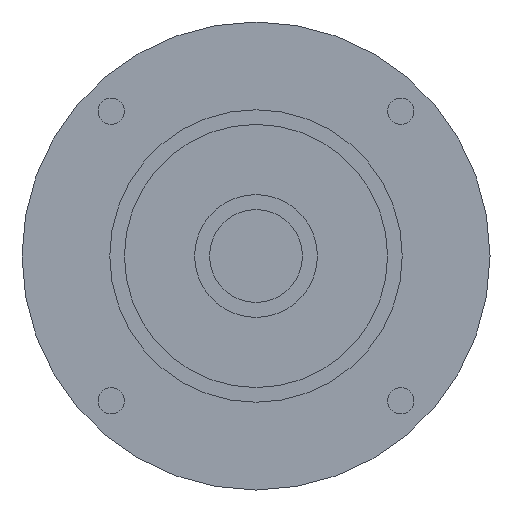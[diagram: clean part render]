
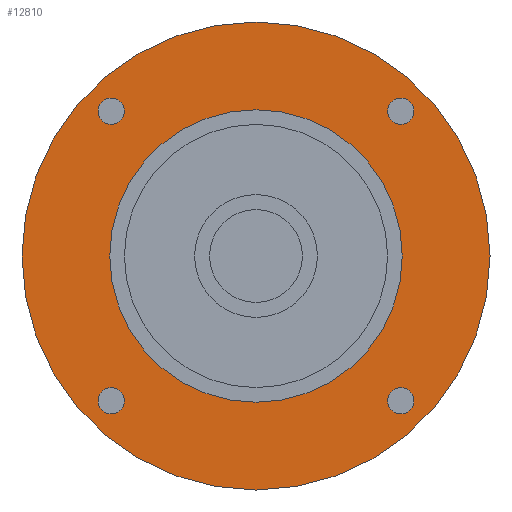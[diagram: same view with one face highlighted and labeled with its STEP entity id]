
A CAD part, left-side view. The second image highlights one B-rep face of the part: STEP entity #12810.
In plain terms, the highlighted planar face has unit normal (-1, 0, 0) as drawn and (0, 0, -1) by its records, which use the part's own axes.
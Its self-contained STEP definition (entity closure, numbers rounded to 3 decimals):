
#11630=CARTESIAN_POINT('',(-40.,0.,-47.2));
#11640=VERTEX_POINT('',#11630);
#11730=CARTESIAN_POINT('',(40.,0.,-47.2));
#11740=VERTEX_POINT('',#11730);
#11770=CARTESIAN_POINT('',(0.,0.,
-47.2));
#11780=DIRECTION('',(0.,0.,1.));
#11790=DIRECTION('',(1.,0.,0.));
#11800=AXIS2_PLACEMENT_3D('',#11770,#11780,#11790);
#11810=CIRCLE('',#11800,40.);
#11820=CARTESIAN_POINT('',(0.,-40.,-47.2));
#11830=VERTEX_POINT('',#11820);
#11840=EDGE_CURVE('',#11830,#11740,#11810,.T.);
#11860=EDGE_CURVE('',#11640,#11830,#11810,.T.);
#11910=CARTESIAN_POINT('',(0.,0.,
-47.2));
#11920=DIRECTION('',(0.,0.,-1.));
#11930=DIRECTION('',(1.,0.,0.));
#11940=AXIS2_PLACEMENT_3D('',#11910,#11920,#11930);
#11950=PLANE('',#11940);
#11960=CARTESIAN_POINT('',(24.749,-24.749,-47.2));
#11970=DIRECTION('',(0.,0.,-1.));
#11980=DIRECTION('',(1.,0.,0.));
#11990=AXIS2_PLACEMENT_3D('',#11960,#11970,#11980);
#12000=CIRCLE('',#11990,2.25);
#12010=CARTESIAN_POINT('',(26.999,-24.749,-47.2));
#12020=VERTEX_POINT('',#12010);
#12030=CARTESIAN_POINT('',(22.499,-24.749,-47.2));
#12040=VERTEX_POINT('',#12030);
#12050=EDGE_CURVE('',#12020,#12040,#12000,.T.);
#12060=ORIENTED_EDGE('',*,*,#12050,.F.);
#12070=EDGE_CURVE('',#12040,#12020,#12000,.T.);
#12080=ORIENTED_EDGE('',*,*,#12070,.F.);
#12090=EDGE_LOOP('',(#12080,#12060));
#12100=FACE_BOUND('',#12090,.T.);
#12110=ORIENTED_EDGE('',*,*,#11840,.F.);
#12120=EDGE_CURVE('',#11740,#11640,#11810,.T.);
#12130=ORIENTED_EDGE('',*,*,#12120,.F.);
#12140=ORIENTED_EDGE('',*,*,#11860,.F.);
#12150=EDGE_LOOP('',(#12140,#12130,#12110));
#12160=FACE_OUTER_BOUND('',#12150,.T.);
#12170=CARTESIAN_POINT('',(24.749,24.749,-47.2));
#12180=DIRECTION('',(0.,0.,-1.));
#12190=DIRECTION('',(0.,1.,0.));
#12200=AXIS2_PLACEMENT_3D('',#12170,#12180,#12190);
#12210=CIRCLE('',#12200,2.25);
#12220=CARTESIAN_POINT('',(24.749,26.999,-47.2));
#12230=VERTEX_POINT('',#12220);
#12240=CARTESIAN_POINT('',(24.749,22.499,-47.2));
#12250=VERTEX_POINT('',#12240);
#12260=EDGE_CURVE('',#12230,#12250,#12210,.T.);
#12270=ORIENTED_EDGE('',*,*,#12260,.F.);
#12280=EDGE_CURVE('',#12250,#12230,#12210,.T.);
#12290=ORIENTED_EDGE('',*,*,#12280,.F.);
#12300=EDGE_LOOP('',(#12290,#12270));
#12310=FACE_BOUND('',#12300,.T.);
#12320=CARTESIAN_POINT('',(-24.749,24.749,-47.2));
#12330=DIRECTION('',(0.,0.,-1.));
#12340=DIRECTION('',(-1.,0.,0.));
#12350=AXIS2_PLACEMENT_3D('',#12320,#12330,#12340);
#12360=CIRCLE('',#12350,2.25);
#12370=CARTESIAN_POINT('',(-26.999,24.749,-47.2));
#12380=VERTEX_POINT('',#12370);
#12390=CARTESIAN_POINT('',(-22.499,24.749,-47.2));
#12400=VERTEX_POINT('',#12390);
#12410=EDGE_CURVE('',#12380,#12400,#12360,.T.);
#12420=ORIENTED_EDGE('',*,*,#12410,.F.);
#12430=EDGE_CURVE('',#12400,#12380,#12360,.T.);
#12440=ORIENTED_EDGE('',*,*,#12430,.F.);
#12450=EDGE_LOOP('',(#12440,#12420));
#12460=FACE_BOUND('',#12450,.T.);
#12470=CARTESIAN_POINT('',(-24.749,-24.749,-47.2));
#12480=DIRECTION('',(0.,0.,-1.));
#12490=DIRECTION('',(0.,-1.,0.));
#12500=AXIS2_PLACEMENT_3D('',#12470,#12480,#12490);
#12510=CIRCLE('',#12500,2.25);
#12520=CARTESIAN_POINT('',(-24.749,-26.999,-47.2));
#12530=VERTEX_POINT('',#12520);
#12540=CARTESIAN_POINT('',(-24.749,-22.499,-47.2));
#12550=VERTEX_POINT('',#12540);
#12560=EDGE_CURVE('',#12530,#12550,#12510,.T.);
#12570=ORIENTED_EDGE('',*,*,#12560,.F.);
#12580=EDGE_CURVE('',#12550,#12530,#12510,.T.);
#12590=ORIENTED_EDGE('',*,*,#12580,.F.);
#12600=EDGE_LOOP('',(#12590,#12570));
#12610=FACE_BOUND('',#12600,.T.);
#12620=CARTESIAN_POINT('',(0.,0.,
-47.2));
#12630=DIRECTION('',(0.,0.,1.));
#12640=DIRECTION('',(0.,1.,0.));
#12650=AXIS2_PLACEMENT_3D('',#12620,#12630,#12640);
#12660=CIRCLE('',#12650,25.);
#12670=CARTESIAN_POINT('',(-25.,0.,-47.2));
#12680=VERTEX_POINT('',#12670);
#12690=CARTESIAN_POINT('',(25.,0.,-47.2));
#12700=VERTEX_POINT('',#12690);
#12710=EDGE_CURVE('',#12680,#12700,#12660,.T.);
#12720=ORIENTED_EDGE('',*,*,#12710,.T.);
#12730=CARTESIAN_POINT('',(0.,25.,-47.2));
#12740=VERTEX_POINT('',#12730);
#12750=EDGE_CURVE('',#12740,#12680,#12660,.T.);
#12760=ORIENTED_EDGE('',*,*,#12750,.T.);
#12770=EDGE_CURVE('',#12700,#12740,#12660,.T.);
#12780=ORIENTED_EDGE('',*,*,#12770,.T.);
#12790=EDGE_LOOP('',(#12780,#12760,#12720));
#12800=FACE_BOUND('',#12790,.T.);
#12810=ADVANCED_FACE('',(#12100,#12160,#12310,#12460,#12610,#12800),
#11950,.T.);
